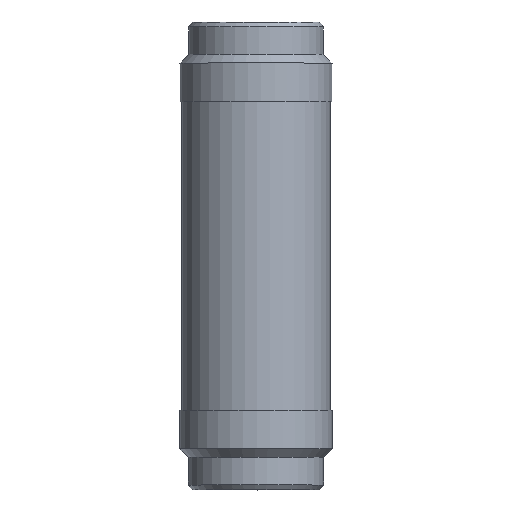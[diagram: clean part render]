
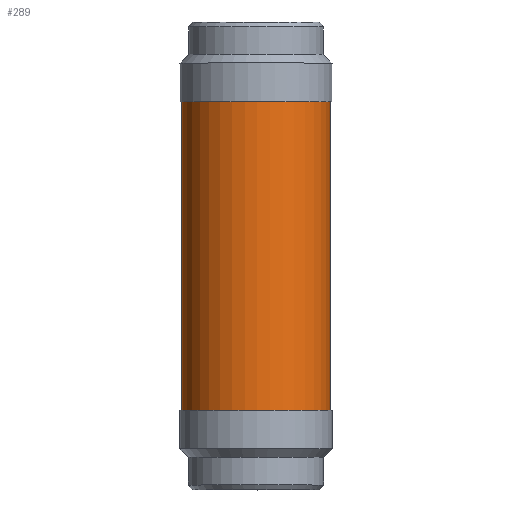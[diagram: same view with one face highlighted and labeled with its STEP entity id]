
A CAD part, top view. The second image highlights one B-rep face of the part: STEP entity #289.
In plain terms, the highlighted cylindrical face has radius 48.92 mm (diameter 97.841 mm), a full revolution.
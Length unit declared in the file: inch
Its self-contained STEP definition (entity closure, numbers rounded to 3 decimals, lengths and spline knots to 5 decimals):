
#34=FACE_BOUND('',#85,.T.);
#58=FACE_OUTER_BOUND('',#84,.T.);
#84=EDGE_LOOP('',(#204));
#85=EDGE_LOOP('',(#205));
#130=CIRCLE('',#321,1.926);
#131=CIRCLE('',#323,1.926);
#154=VERTEX_POINT('',#470);
#155=VERTEX_POINT('',#473);
#178=EDGE_CURVE('',#154,#154,#130,.T.);
#179=EDGE_CURVE('',#155,#155,#131,.T.);
#204=ORIENTED_EDGE('',*,*,#178,.T.);
#205=ORIENTED_EDGE('',*,*,#179,.T.);
#249=CYLINDRICAL_SURFACE('',#322,1.926);
#289=ADVANCED_FACE('',(#58,#34),#249,.T.);
#321=AXIS2_PLACEMENT_3D('',#471,#375,#376);
#322=AXIS2_PLACEMENT_3D('',#472,#377,#378);
#323=AXIS2_PLACEMENT_3D('',#474,#379,#380);
#375=DIRECTION('center_axis',(0.,1.,0.));
#376=DIRECTION('ref_axis',(-0.483,0.,0.875));
#377=DIRECTION('center_axis',(0.,1.,0.));
#378=DIRECTION('ref_axis',(-0.483,0.,0.875));
#379=DIRECTION('center_axis',(0.,-1.,0.));
#380=DIRECTION('ref_axis',(-0.483,0.,0.875));
#470=CARTESIAN_POINT('',(0.93081,1.0625,-1.68614));
#471=CARTESIAN_POINT('Origin',(0.,1.0625,0.));
#472=CARTESIAN_POINT('Origin',(0.,6.0625,0.));
#473=CARTESIAN_POINT('',(0.93081,11.0625,-1.68614));
#474=CARTESIAN_POINT('Origin',(0.,11.0625,0.));
